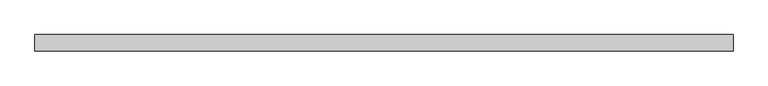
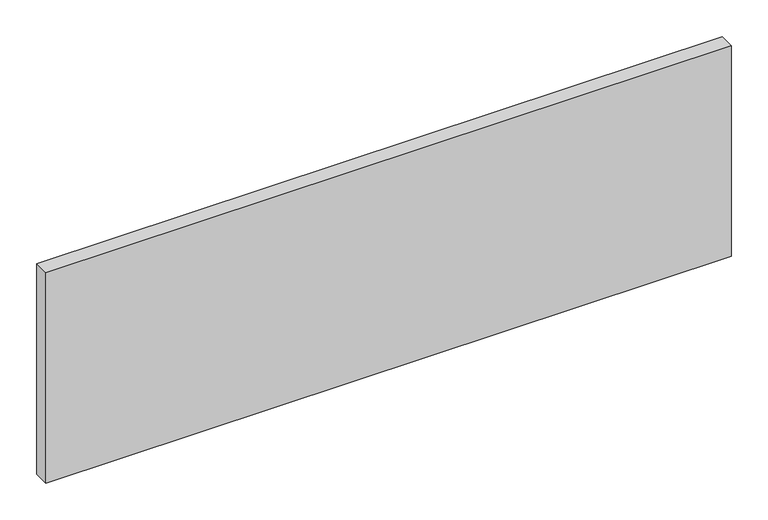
"""IFC4 building model written with IfcOpenShell, lengths in millimetres: plate geometry, 系统嵌板 : 玻璃."""

from ifc_helpers import new_model, si_unit, origin, origin_with_axes, place, context, project, spatial, polyline, outline, extrude, source, transform, mapped, element, save


def plate_21902d22(model_context):
    return source(origin(), model_context, "Body", "SweptSolid", [
        extrude(outline(polyline([(539.4292937, -12.5), (-539.4292937, -12.5), (-539.4292937, 12.5), (539.4292937, 12.5), (539.4292937, -12.5)])), origin_with_axes(), (0.0, 0.0, 1.0), 350.0),
    ])


if __name__ == "__main__":
    model = new_model("IFC4")
    model_context = context("Model", 3, world=origin())
    ifc_project = project(units=[si_unit("LENGTHUNIT", "METRE", prefix="MILLI")], contexts=[model_context])
    site = spatial("IfcSite", under=ifc_project)
    building = spatial("IfcBuilding", under=site)
    placement = place(None, origin())
    plate_shape = plate_21902d22(model_context)
    element("IfcPlate", 1, ObjectType="系统嵌板 : 玻璃", at=placement, inside=building, context=model_context, shape_type="MappedRepresentation", body=[
        mapped(plate_shape, transform((0.0, 0.0, 0.0), x_axis=(1.0, 0.0, 0.0), y_axis=(0.0, 1.0, 0.0), z_axis=(0.0, 0.0, 1.0))),
    ])
    save(model, "model.ifc")
